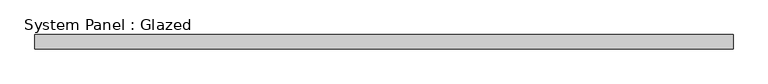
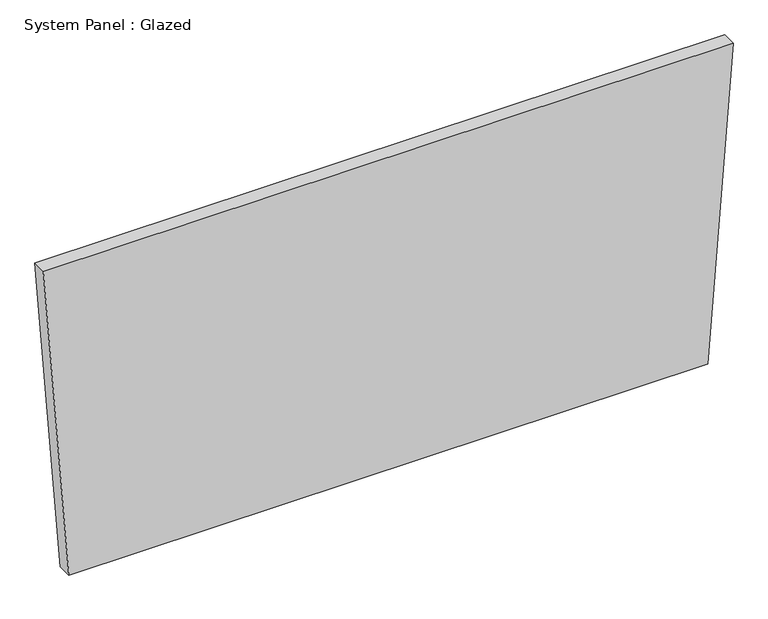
"""IFC4 building model written with IfcOpenShell, lengths in millimetres: plate geometry, System Panel : Glazed."""

from ifc_helpers import new_model, si_unit, frame, origin, place, context, project, spatial, polyline, outline, extrude, source, transform, mapped, element, save


def system_panel_glazed_261e48b5(model_context):
    return source(origin(), model_context, "Body", "SweptSolid", [
        extrude(outline(polyline([(0.0, -563.151091), (0.0, 563.151091), (582.3974987, 608.0374712), (582.3974987, -608.0374712), (0.0, -563.151091)])), frame((0.0, -44.45, 0.0), z_axis=(0.0, 1.0, 0.0), x_axis=(0.0, 0.0, 1.0)), (0.0, 0.0, 1.0), 25.4),
    ])


if __name__ == "__main__":
    model = new_model("IFC4")
    model_context = context("Model", 3, world=origin())
    ifc_project = project(units=[si_unit("LENGTHUNIT", "METRE", prefix="MILLI")], contexts=[model_context])
    site = spatial("IfcSite", under=ifc_project)
    building = spatial("IfcBuilding", under=site)
    placement = place(None, origin())
    system_panel_glazed_shape = system_panel_glazed_261e48b5(model_context)
    element("IfcPlate", 1, ObjectType="System Panel : Glazed", at=placement, inside=building, context=model_context, shape_type="MappedRepresentation", body=[
        mapped(system_panel_glazed_shape, transform((0.0, 0.0, 0.0), x_axis=(1.0, 0.0, 0.0), y_axis=(0.0, 1.0, 0.0), z_axis=(0.0, 0.0, 1.0))),
    ])
    save(model, "model.ifc")
